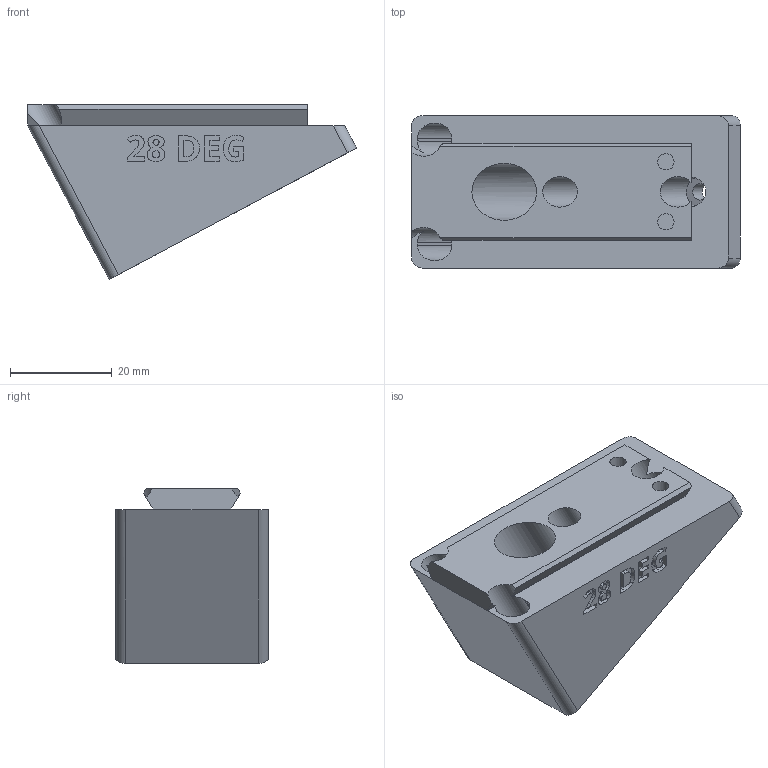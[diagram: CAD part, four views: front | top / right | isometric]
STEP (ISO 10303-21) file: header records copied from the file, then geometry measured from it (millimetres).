
FILE_DESCRIPTION(/* description */ ('STEP AP242 Edition 2','CAx-IF Rec.Pracs.---Representation and Presentation of Product Manufacturing Information (PMI)---4.0---2014-10-13','CAx-IF Rec.Pracs.---3D Tessellated Geometry---0.4---2014-09-14','2;1','CAx-IF Rec.Pracs.---User Defined Attributes---1.5---2016-08-15'),/* implementation_level */ '2;1');
FILE_NAME(/* name */ 'Camera Wedges - CAMERA MOUNTING WEDGE, POS, 28 DEG',/* time_stamp */ '2026-07-08T20:39:12Z',/* author */ (''),/* organization */ (''),/* preprocessor_version */ 'ST-DEVELOPER v20',/* originating_system */ 'ONSHAPE BY PTC INC, 1.217',/* authorisation */ ' ');
FILE_SCHEMA (('AP242_MANAGED_MODEL_BASED_3D_ENGINEERING_MIM_LF { 1 0 10303 442 3 1 4 }'));
Length unit declared in the file: metre
Products named in the file (1): CAMERA MOUNTING WEDGE, POS, 28 DEG
Bounding box: 64.64 x 30 x 34.34 mm (x, y, z)
Volume: 29896.8 mm3; surface area: 10578 mm2
Topology: 1 solids, 1 shells, 288 faces, 795 edges, 530 vertices
Faces by surface type: plane 130, bspline 94, cylinder 64
Full cylindrical faces by diameter (mm): 3.2 x4, 6 x2, 6.4 x1, 11.2 x1
Entity records: 9473 total; most frequent: CARTESIAN_POINT 2634, ORIENTED_EDGE 1568, DIRECTION 1129, EDGE_CURVE 784, VERTEX_POINT 527, LINE 453, VECTOR 453, AXIS2_PLACEMENT_3D 338
